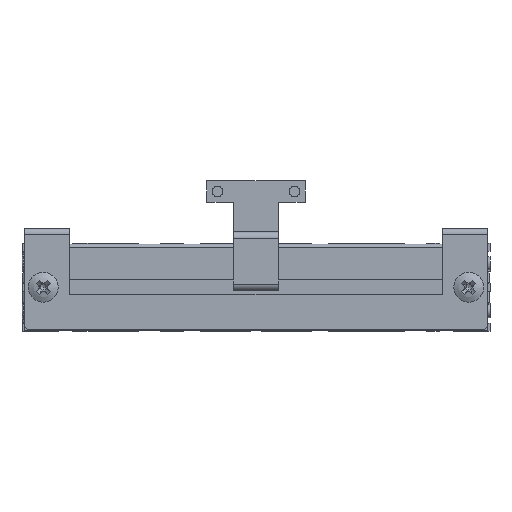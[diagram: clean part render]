
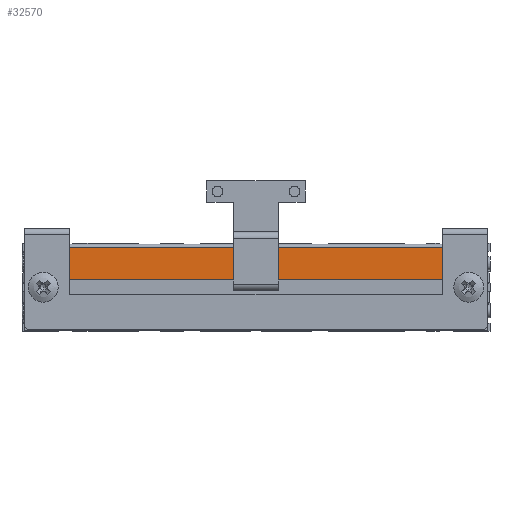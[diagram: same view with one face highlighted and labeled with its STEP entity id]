
A CAD part, front view. The second image highlights one B-rep face of the part: STEP entity #32570.
In plain terms, the highlighted planar face has unit normal (0, -1, 0).
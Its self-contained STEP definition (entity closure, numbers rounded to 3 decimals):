
#6949 = CYLINDRICAL_SURFACE('',#6950,0.6);
#6950 = AXIS2_PLACEMENT_3D('',#6951,#6952,#6953);
#6951 = CARTESIAN_POINT('',(-43.,-2.9,-3.5));
#6952 = DIRECTION('',(1.,0.,0.));
#6953 = DIRECTION('',(0.,-1.,0.));
#21920 = VERTEX_POINT('',#21921);
#21921 = CARTESIAN_POINT('',(35.,-3.5,-3.5));
#21941 = EDGE_CURVE('',#21920,#21942,#21944,.T.);
#21942 = VERTEX_POINT('',#21943);
#21943 = CARTESIAN_POINT('',(-35.,-3.5,-3.5));
#21944 = SURFACE_CURVE('',#21945,(#21949,#21955),.PCURVE_S1.);
#21945 = LINE('',#21946,#21947);
#21946 = CARTESIAN_POINT('',(43.,-3.5,-3.5));
#21947 = VECTOR('',#21948,1.);
#21948 = DIRECTION('',(-1.,0.,0.));
#21949 = PCURVE('',#6949,#21950);
#21950 = DEFINITIONAL_REPRESENTATION('',(#21951),#21954);
#21951 = B_SPLINE_CURVE_WITH_KNOTS('',1,(#21952,#21953),.UNSPECIFIED.,
  .F.,.F.,(2,2),(0.,86.),.PIECEWISE_BEZIER_KNOTS.);
#21952 = CARTESIAN_POINT('',(0.,86.));
#21953 = CARTESIAN_POINT('',(0.,0.));
#21954 = ( GEOMETRIC_REPRESENTATION_CONTEXT(2) 
PARAMETRIC_REPRESENTATION_CONTEXT() REPRESENTATION_CONTEXT('2D SPACE',''
  ) );
#21955 = PCURVE('',#21956,#21961);
#21956 = PLANE('',#21957);
#21957 = AXIS2_PLACEMENT_3D('',#21958,#21959,#21960);
#21958 = CARTESIAN_POINT('',(0.,-3.5,-11.));
#21959 = DIRECTION('',(-0.,-1.,0.));
#21960 = DIRECTION('',(0.,0.,-1.));
#21961 = DEFINITIONAL_REPRESENTATION('',(#21962),#21966);
#21962 = LINE('',#21963,#21964);
#21963 = CARTESIAN_POINT('',(-7.5,43.));
#21964 = VECTOR('',#21965,1.);
#21965 = DIRECTION('',(0.,-1.));
#21966 = ( GEOMETRIC_REPRESENTATION_CONTEXT(2) 
PARAMETRIC_REPRESENTATION_CONTEXT() REPRESENTATION_CONTEXT('2D SPACE',''
  ) );
#32134 = PLANE('',#32135);
#32135 = AXIS2_PLACEMENT_3D('',#32136,#32137,#32138);
#32136 = CARTESIAN_POINT('',(35.,-13.,-12.35));
#32137 = DIRECTION('',(1.,0.,0.));
#32138 = DIRECTION('',(0.,0.,1.));
#32184 = PLANE('',#32185);
#32185 = AXIS2_PLACEMENT_3D('',#32186,#32187,#32188);
#32186 = CARTESIAN_POINT('',(-35.,-13.,-12.35));
#32187 = DIRECTION('',(1.,0.,0.));
#32188 = DIRECTION('',(0.,0.,1.));
#32570 = ADVANCED_FACE('',(#32571),#21956,.T.);
#32571 = FACE_BOUND('',#32572,.T.);
#32572 = EDGE_LOOP('',(#32573,#32574,#32596,#32622));
#32573 = ORIENTED_EDGE('',*,*,#21941,.T.);
#32574 = ORIENTED_EDGE('',*,*,#32575,.F.);
#32575 = EDGE_CURVE('',#32576,#21942,#32578,.T.);
#32576 = VERTEX_POINT('',#32577);
#32577 = CARTESIAN_POINT('',(-35.,-3.5,-9.5));
#32578 = SURFACE_CURVE('',#32579,(#32583,#32590),.PCURVE_S1.);
#32579 = LINE('',#32580,#32581);
#32580 = CARTESIAN_POINT('',(-35.,-3.5,-11.175));
#32581 = VECTOR('',#32582,1.);
#32582 = DIRECTION('',(0.,0.,1.));
#32583 = PCURVE('',#21956,#32584);
#32584 = DEFINITIONAL_REPRESENTATION('',(#32585),#32589);
#32585 = LINE('',#32586,#32587);
#32586 = CARTESIAN_POINT('',(0.175,-35.));
#32587 = VECTOR('',#32588,1.);
#32588 = DIRECTION('',(-1.,0.));
#32589 = ( GEOMETRIC_REPRESENTATION_CONTEXT(2) 
PARAMETRIC_REPRESENTATION_CONTEXT() REPRESENTATION_CONTEXT('2D SPACE',''
  ) );
#32590 = PCURVE('',#32184,#32591);
#32591 = DEFINITIONAL_REPRESENTATION('',(#32592),#32595);
#32592 = B_SPLINE_CURVE_WITH_KNOTS('',1,(#32593,#32594),.UNSPECIFIED.,
  .F.,.F.,(2,2),(-1.175,10.175),
  .PIECEWISE_BEZIER_KNOTS.);
#32593 = CARTESIAN_POINT('',(0.,-9.5));
#32594 = CARTESIAN_POINT('',(11.35,-9.5));
#32595 = ( GEOMETRIC_REPRESENTATION_CONTEXT(2) 
PARAMETRIC_REPRESENTATION_CONTEXT() REPRESENTATION_CONTEXT('2D SPACE',''
  ) );
#32596 = ORIENTED_EDGE('',*,*,#32597,.F.);
#32597 = EDGE_CURVE('',#32598,#32576,#32600,.T.);
#32598 = VERTEX_POINT('',#32599);
#32599 = CARTESIAN_POINT('',(35.,-3.5,-9.5));
#32600 = SURFACE_CURVE('',#32601,(#32605,#32611),.PCURVE_S1.);
#32601 = LINE('',#32602,#32603);
#32602 = CARTESIAN_POINT('',(-18.,-3.5,-9.5));
#32603 = VECTOR('',#32604,1.);
#32604 = DIRECTION('',(-1.,0.,0.));
#32605 = PCURVE('',#21956,#32606);
#32606 = DEFINITIONAL_REPRESENTATION('',(#32607),#32610);
#32607 = B_SPLINE_CURVE_WITH_KNOTS('',1,(#32608,#32609),.UNSPECIFIED.,
  .F.,.F.,(2,2),(-54.,18.),.PIECEWISE_BEZIER_KNOTS.);
#32608 = CARTESIAN_POINT('',(-1.5,36.));
#32609 = CARTESIAN_POINT('',(-1.5,-36.));
#32610 = ( GEOMETRIC_REPRESENTATION_CONTEXT(2) 
PARAMETRIC_REPRESENTATION_CONTEXT() REPRESENTATION_CONTEXT('2D SPACE',''
  ) );
#32611 = PCURVE('',#32612,#32617);
#32612 = PLANE('',#32613);
#32613 = AXIS2_PLACEMENT_3D('',#32614,#32615,#32616);
#32614 = CARTESIAN_POINT('',(-36.,-2.5,-9.5));
#32615 = DIRECTION('',(0.,0.,1.));
#32616 = DIRECTION('',(0.,-1.,0.));
#32617 = DEFINITIONAL_REPRESENTATION('',(#32618),#32621);
#32618 = B_SPLINE_CURVE_WITH_KNOTS('',1,(#32619,#32620),.UNSPECIFIED.,
  .F.,.F.,(2,2),(-54.,18.),.PIECEWISE_BEZIER_KNOTS.);
#32619 = CARTESIAN_POINT('',(1.,72.));
#32620 = CARTESIAN_POINT('',(1.,0.));
#32621 = ( GEOMETRIC_REPRESENTATION_CONTEXT(2) 
PARAMETRIC_REPRESENTATION_CONTEXT() REPRESENTATION_CONTEXT('2D SPACE',''
  ) );
#32622 = ORIENTED_EDGE('',*,*,#32623,.T.);
#32623 = EDGE_CURVE('',#32598,#21920,#32624,.T.);
#32624 = SURFACE_CURVE('',#32625,(#32629,#32636),.PCURVE_S1.);
#32625 = LINE('',#32626,#32627);
#32626 = CARTESIAN_POINT('',(35.,-3.5,-11.175));
#32627 = VECTOR('',#32628,1.);
#32628 = DIRECTION('',(0.,0.,1.));
#32629 = PCURVE('',#21956,#32630);
#32630 = DEFINITIONAL_REPRESENTATION('',(#32631),#32635);
#32631 = LINE('',#32632,#32633);
#32632 = CARTESIAN_POINT('',(0.175,35.));
#32633 = VECTOR('',#32634,1.);
#32634 = DIRECTION('',(-1.,0.));
#32635 = ( GEOMETRIC_REPRESENTATION_CONTEXT(2) 
PARAMETRIC_REPRESENTATION_CONTEXT() REPRESENTATION_CONTEXT('2D SPACE',''
  ) );
#32636 = PCURVE('',#32134,#32637);
#32637 = DEFINITIONAL_REPRESENTATION('',(#32638),#32641);
#32638 = B_SPLINE_CURVE_WITH_KNOTS('',1,(#32639,#32640),.UNSPECIFIED.,
  .F.,.F.,(2,2),(-1.175,10.175),
  .PIECEWISE_BEZIER_KNOTS.);
#32639 = CARTESIAN_POINT('',(0.,-9.5));
#32640 = CARTESIAN_POINT('',(11.35,-9.5));
#32641 = ( GEOMETRIC_REPRESENTATION_CONTEXT(2) 
PARAMETRIC_REPRESENTATION_CONTEXT() REPRESENTATION_CONTEXT('2D SPACE',''
  ) );
